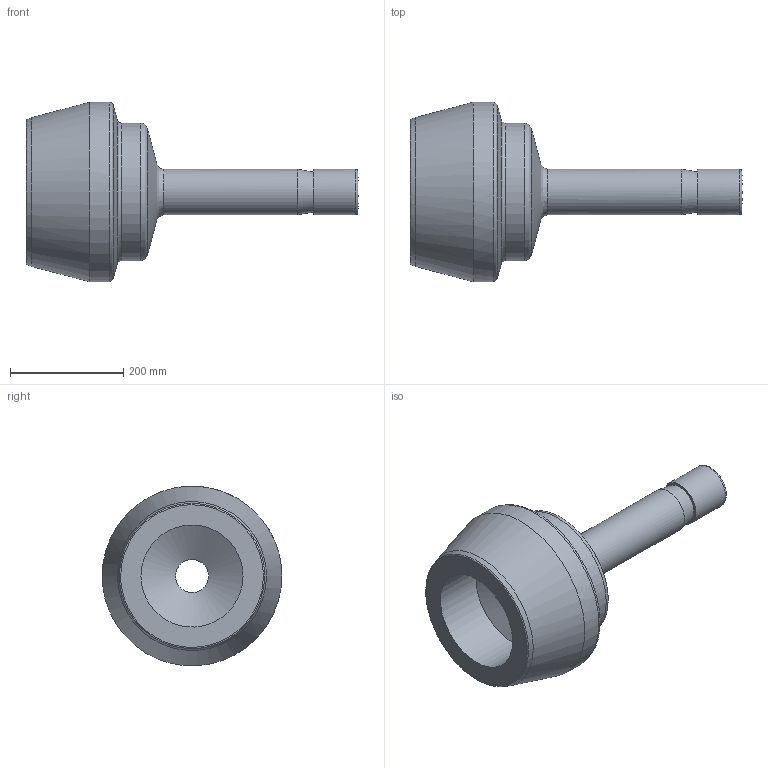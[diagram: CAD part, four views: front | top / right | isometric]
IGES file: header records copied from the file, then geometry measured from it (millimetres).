
Global section: file name: SRPC-6-2; native system: Autodesk Inventor 2016; preprocessor: unknown; author: DESIGNPC2; date: 20151219.164619; units: millimetre
Bounding box: 586.74 x 317.5 x 317.3 mm (x, y, z)
Volume: 11768672.9 mm3; surface area: 533533.8 mm2
Topology: 1 solids, 1 shells, 21 faces, 70 edges, 52 vertices
Faces by surface type: bspline 21
